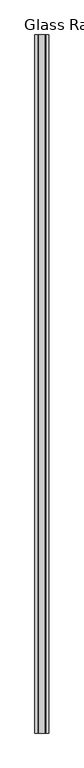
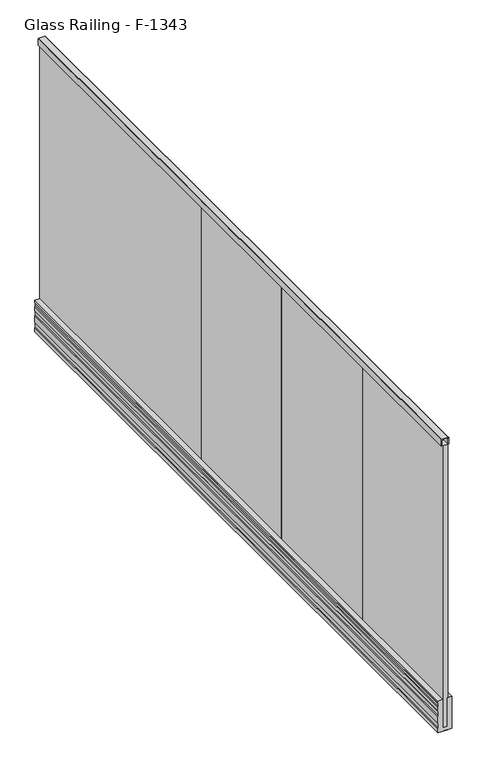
"""IFC4 building model written with IfcOpenShell, lengths in millimetres: railing geometry, Glass Railing - F-1343."""

from ifc_helpers import new_model, si_unit, point, frame, frame_2d, origin, place, context, project, spatial, polyline, circle_curve, trimmed, segment, composite_curve, outline, extrude, source, transform, mapped, element, save


def glass_railing_f_1343_97b605d3(model_context):
    return source(origin(), model_context, "Body", "SweptSolid", [
        extrude(outline(polyline([(200.0, 20267.2746817), (190.9999997, 20267.2746817), (187.9999997, 20269.2746817), (178.9999997, 20269.2746817), (175.9999997, 20267.2746817), (160.9999997, 20267.2746817), (157.9999997, 20269.2746817), (144.0, 20269.2746817), (141.0, 20267.2746817), (117.0, 20267.2746817), (114.0, 20269.2746817), (97.9999997, 20269.2746817), (94.9999997, 20267.2746817), (79.9999997, 20267.2746817), (79.9999997, 20285.273249), (80.9999997, 20286.773249), (80.9999997, 20303.773249), (79.9999997, 20305.273249), (79.9999997, 20317.2746817), (199.9999998, 20317.2746817), (199.9999998, 20301.3187038), (92.9145347, 20301.3187038), (92.9145347, 20284.5587038), (200.0, 20284.5587038), (200.0, 20267.2746817)])), frame((0.0, -1186.3511741, 0.0), z_axis=(0.0, 1.0, 0.0), x_axis=(0.0, 0.0, 1.0)), (0.0, 0.0, 1.0), 2500.0),
        extrude(outline(composite_curve([segment(polyline([(1183.9009354, 20279.2746817), (1159.9009354, 20279.2746817), (1159.9009354, 20281.2746819), (1179.9999997, 20281.2746819), (1179.9999997, 20283.9128598), (1182.5002032, 20283.9128598), (1182.5002032, 20282.7246817), (1184.0999998, 20282.7246817), (1184.0999998, 20301.8246817), (1182.4993977, 20301.8246817), (1182.4993977, 20300.6365035), (1179.9999997, 20300.6365035), (1179.9999997, 20303.2746817), (1159.9009356, 20303.2746817), (1159.9009356, 20305.2746819), (1183.9009356, 20305.2746819)]), True, "CONTINUOUS"), segment(trimmed(circle_curve(frame_2d((1183.9009356, 20303.2746817)), 2.0), [point((1183.9009356, 20305.2746819))], [point((1185.9009356, 20303.2746817))], False, "CARTESIAN"), True, "CONTINUOUS"), segment(polyline([(1185.9009356, 20303.2746817), (1185.9009356, 20281.2746817)]), True, "CONTINUOUS"), segment(trimmed(circle_curve(frame_2d((1183.9009354, 20281.2746817)), 2.0), [point((1185.9009356, 20281.2746817))], [point((1183.9009354, 20279.2746817))], False, "CARTESIAN"), True, "CONTINUOUS")], self_intersect=False)), frame((0.0, -1186.3511741, 0.0), z_axis=(0.0, 1.0, 0.0), x_axis=(0.0, 0.0, 1.0)), (0.0, 0.0, 1.0), 2500.0),
        extrude(outline(polyline([(20284.7746817, 313.6488259), (20284.7746817, 1313.6488259), (20302.2746817, 1313.6488259), (20302.2746817, 313.6488259), (20284.7746817, 313.6488259)])), frame((0.0, 0.0, 78.9999997), z_axis=(0.0, 0.0, 1.0), x_axis=(1.0, 0.0, 0.0)), (0.0, 0.0, 1.0), 1080.9009357),
        extrude(outline(polyline([(20284.7746817, -186.3511741), (20284.7746817, 813.6488259), (20302.2746817, 813.6488259), (20302.2746817, -186.3511741), (20284.7746817, -186.3511741)])), frame((0.0, 0.0, 78.9999997), z_axis=(0.0, 0.0, 1.0), x_axis=(1.0, 0.0, 0.0)), (0.0, 0.0, 1.0), 1080.9009357),
        extrude(outline(polyline([(20284.7746817, -686.3511741), (20284.7746817, 313.6488259), (20302.2746817, 313.6488259), (20302.2746817, -686.3511741), (20284.7746817, -686.3511741)])), frame((0.0, 0.0, 78.9999997), z_axis=(0.0, 0.0, 1.0), x_axis=(1.0, 0.0, 0.0)), (0.0, 0.0, 1.0), 1080.9009357),
        extrude(outline(polyline([(20284.7746817, -1186.3511741), (20284.7746817, -186.3511741), (20302.2746817, -186.3511741), (20302.2746817, -1186.3511741), (20284.7746817, -1186.3511741)])), frame((0.0, 0.0, 78.9999997), z_axis=(0.0, 0.0, 1.0), x_axis=(1.0, 0.0, 0.0)), (0.0, 0.0, 1.0), 1080.9009357),
    ])


if __name__ == "__main__":
    model = new_model("IFC4")
    model_context = context("Model", 3, world=origin())
    ifc_project = project(units=[si_unit("LENGTHUNIT", "METRE", prefix="MILLI")], contexts=[model_context])
    site = spatial("IfcSite", under=ifc_project)
    building = spatial("IfcBuilding", under=site)
    placement = place(None, origin())
    glass_railing_f_1343_shape = glass_railing_f_1343_97b605d3(model_context)
    element("IfcRailing", 1, ObjectType="Glass Railing - F-1343", at=placement, inside=building, context=model_context, shape_type="MappedRepresentation", body=[
        mapped(glass_railing_f_1343_shape, transform((0.0, 0.0, 0.0), x_axis=(1.0, 0.0, 0.0), y_axis=(0.0, 1.0, 0.0), z_axis=(0.0, 0.0, 1.0))),
    ])
    save(model, "model.ifc")
